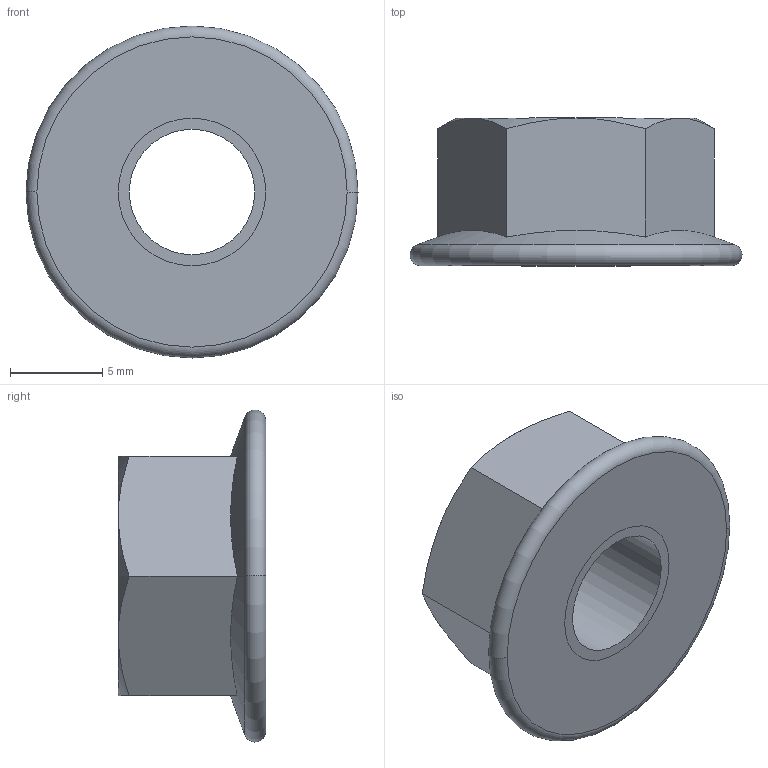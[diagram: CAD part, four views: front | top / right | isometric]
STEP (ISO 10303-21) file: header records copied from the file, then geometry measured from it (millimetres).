
FILE_DESCRIPTION((''),'2;1');
FILE_NAME('DAEFL08','2002-12-27T',('Lipro doo'),('Lipro d.o.o.'),'PRO/ENGINEER BY PARAMETRIC TECHNOLOGY CORPORATION, 2001150','PRO/ENGINEER BY PARAMETRIC TECHNOLOGY CORPORATION, 2001150','');
FILE_SCHEMA(('CONFIG_CONTROL_DESIGN'));
Length unit declared in the file: millimetre
Products named in the file (1): DAEFL08
Bounding box: 18 x 8 x 18 mm (x, y, z)
Volume: 1013.3 mm3; surface area: 1108.3 mm2
Topology: 1 solids, 2 shells, 24 faces, 54 edges, 32 vertices
Faces by surface type: cone 10, plane 8, cylinder 4, torus 2
Entity records: 814 total; most frequent: CARTESIAN_POINT 249, DIRECTION 108, ORIENTED_EDGE 104, EDGE_CURVE 54, AXIS2_PLACEMENT_3D 47, VERTEX_POINT 32, EDGE_LOOP 26, FACE_OUTER_BOUND 24
